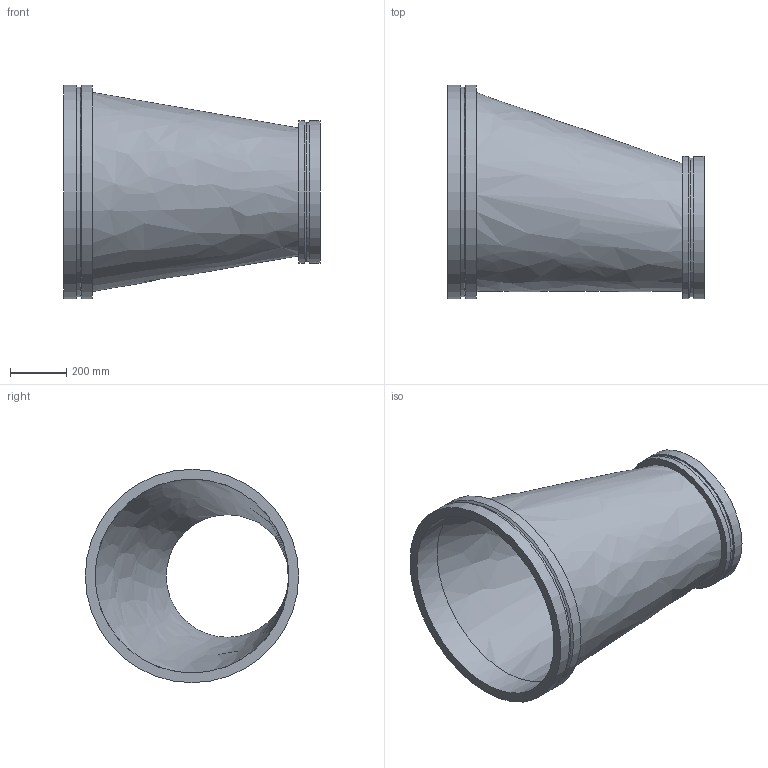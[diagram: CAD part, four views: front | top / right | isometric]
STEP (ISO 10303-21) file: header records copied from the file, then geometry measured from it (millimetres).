
FILE_DESCRIPTION(/* description */ ('VIC REDUCER ECCENTRIC No W51-VR','CAx-IF Rec.Pracs.---Representation and Presentation of Product Manufacturing Information (PMI)---4.0---2014-10-13'),/* implementation_level */ '2;1');
FILE_NAME(/* name */ 'C:\Users\kkamble\AppData\Roaming\Autodesk\ApplicationPlugins\Back Up\Victaulic_Vic-Ring_Reducer Eccentric_No W51 VR (AGR)\Victaulic_Vic-Ring_Reducer Eccentric_No W51 VR (AGR)_28.0x18.0 (700x450).stp',/* time_stamp */ '2020-09-10T11:49:42+05:00',/* author */ ('CONSTRUCTION PIPING SERVICES'),/* organization */ ('Victaulic'),/* preprocessor_version */ 'ST-DEVELOPER v17.2',/* originating_system */ 'Autodesk Inventor 2019',/* authorisation */ '');
FILE_SCHEMA (('AP242_MANAGED_MODEL_BASED_3D_ENGINEERING_MIM_LF { 1 0 10303 442 1 1 4 }'));
Length unit declared in the file: inch
Products named in the file (1): W51 VR-28.0x18.0
Bounding box: 914.4 x 762 x 762 mm (x, y, z)
Volume: 24286254 mm3; surface area: 3675877 mm2
Topology: 1 solids, 1 shells, 18 faces, 49 edges, 37 vertices
Faces by surface type: cylinder 8, plane 6, cone 2, bspline 2
Full cylindrical faces by diameter (mm): 438.15 x1, 495.3 x1, 508 x2, 692.15 x1, 747.522 x1, 762 x2
Entity records: 792 total; most frequent: CARTESIAN_POINT 158, DIRECTION 144, ORIENTED_EDGE 98, AXIS2_PLACEMENT_3D 67, EDGE_CURVE 49, CIRCLE 37, VERTEX_POINT 37, EDGE_LOOP 24
